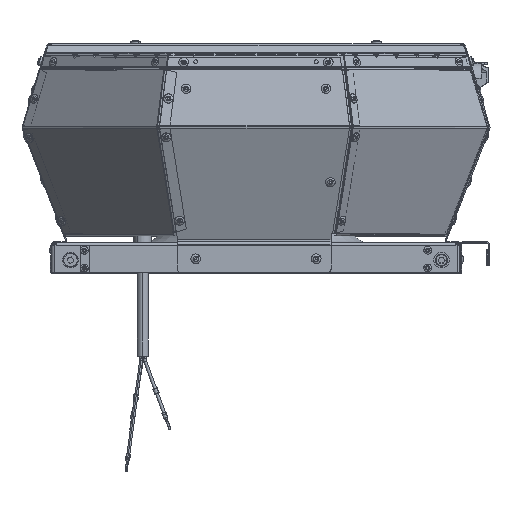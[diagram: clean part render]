
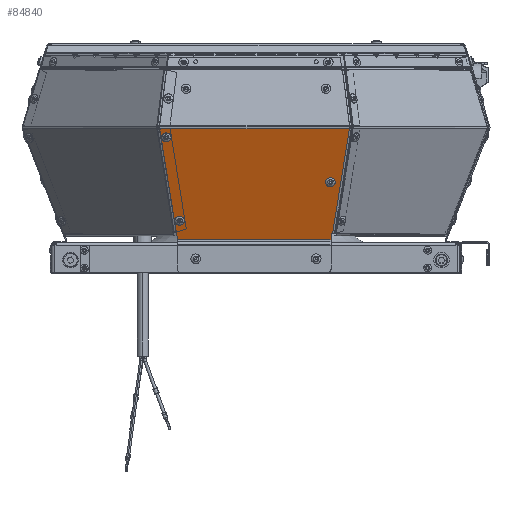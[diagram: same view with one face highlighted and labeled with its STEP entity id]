
A CAD part, top view. The second image highlights one B-rep face of the part: STEP entity #84840.
In plain terms, the highlighted planar face has unit normal (0, -0.362, 0.932).
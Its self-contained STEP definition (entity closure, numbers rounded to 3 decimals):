
#13533 = LINE ( 'NONE', #57414, #13535 ) ;
#13535 = VECTOR ( 'NONE', #57427, 1000. ) ;
#13552 = LINE ( 'NONE', #57530, #13555 ) ;
#13555 = VECTOR ( 'NONE', #57533, 1000. ) ;
#13692 = LINE ( 'NONE', #24777, #13695 ) ;
#13695 = VECTOR ( 'NONE', #24779, 1000. ) ;
#16326 = CARTESIAN_POINT ( 'NONE',  ( 77.58, 96.532, 193.955 ) ) ;
#16332 = DIRECTION ( 'NONE',  ( 0.965, -0.245, -0.095 ) ) ;
#16343 = CARTESIAN_POINT ( 'NONE',  ( 62.259, 9.286, 160.026 ) ) ;
#16344 = DIRECTION ( 'NONE',  ( -1., 0., 0. ) ) ;
#16350 = CARTESIAN_POINT ( 'NONE',  ( -74.512, 89.402, 191.182 ) ) ;
#16351 = DIRECTION ( 'NONE',  ( 0., 0.362, -0.932 ) ) ;
#16352 = DIRECTION ( 'NONE',  ( 0., 0.932, 0.362 ) ) ;
#16507 = CARTESIAN_POINT ( 'NONE',  ( 80., 4.499, 158.165 ) ) ;
#16508 = DIRECTION ( 'NONE',  ( -1., 0., 0. ) ) ;
#21293 = AXIS2_PLACEMENT_3D ( 'NONE', #48141, #48133, #48143 ) ;
#24777 = CARTESIAN_POINT ( 'NONE',  ( -65.164, 4.499, 158.165 ) ) ;
#24779 = DIRECTION ( 'NONE',  ( -0.148, 0.922, 0.358 ) ) ;
#27751 = FACE_BOUND ( 'NONE', #31675, .T. ) ;
#27753 = FACE_BOUND ( 'NONE', #31655, .T. ) ;
#27756 = FACE_OUTER_BOUND ( 'NONE', #31855, .T. ) ;
#27759 = FACE_BOUND ( 'NONE', #31853, .T. ) ;
#30912 = ORIENTED_EDGE ( 'NONE', *, *, #74781, .T. ) ;
#31014 = ORIENTED_EDGE ( 'NONE', *, *, #74881, .T. ) ;
#31024 = ORIENTED_EDGE ( 'NONE', *, *, #74483, .F. ) ;
#31072 = ORIENTED_EDGE ( 'NONE', *, *, #74491, .T. ) ;
#31114 = ORIENTED_EDGE ( 'NONE', *, *, #74487, .T. ) ;
#31216 = ORIENTED_EDGE ( 'NONE', *, *, #74724, .T. ) ;
#31234 = ORIENTED_EDGE ( 'NONE', *, *, #74749, .F. ) ;
#31327 = ORIENTED_EDGE ( 'NONE', *, *, #88229, .F. ) ;
#31333 = ORIENTED_EDGE ( 'NONE', *, *, #88213, .T. ) ;
#31339 = ORIENTED_EDGE ( 'NONE', *, *, #74861, .F. ) ;
#31344 = ORIENTED_EDGE ( 'NONE', *, *, #74878, .F. ) ;
#31442 = ORIENTED_EDGE ( 'NONE', *, *, #88321, .F. ) ;
#31452 = ORIENTED_EDGE ( 'NONE', *, *, #74442, .F. ) ;
#31655 = EDGE_LOOP ( 'NONE', ( #31216, #30912 ) ) ;
#31675 = EDGE_LOOP ( 'NONE', ( #31234, #31024 ) ) ;
#31781 = ORIENTED_EDGE ( 'NONE', *, *, #75066, .F. ) ;
#31853 = EDGE_LOOP ( 'NONE', ( #31114, #31014 ) ) ;
#31855 = EDGE_LOOP ( 'NONE', ( #31781, #31327, #31344, #31333, #31339, #31452, #31072, #31442 ) ) ;
#32630 = LINE ( 'NONE', #59636, #32648 ) ;
#32648 = VECTOR ( 'NONE', #59623, 1000. ) ;
#32670 = CIRCLE ( 'NONE', #79886, 2.1 ) ;
#32676 = CIRCLE ( 'NONE', #79887, 2.1 ) ;
#32680 = LINE ( 'NONE', #59746, #32686 ) ;
#32686 = VECTOR ( 'NONE', #59733, 1000. ) ;
#32880 = CIRCLE ( 'NONE', #79919, 2.1 ) ;
#32896 = CIRCLE ( 'NONE', #79924, 2.1 ) ;
#32924 = CIRCLE ( 'NONE', #79929, 2.1 ) ;
#32968 = LINE ( 'NONE', #16326, #32992 ) ;
#32992 = VECTOR ( 'NONE', #16332, 1000. ) ;
#32994 = LINE ( 'NONE', #16343, #33002 ) ;
#32998 = CIRCLE ( 'NONE', #79938, 2.1 ) ;
#33002 = VECTOR ( 'NONE', #16344, 1000. ) ;
#33171 = LINE ( 'NONE', #16507, #33174 ) ;
#33174 = VECTOR ( 'NONE', #16508, 1000. ) ;
#48133 = DIRECTION ( 'NONE',  ( 0., 0.362, -0.932 ) ) ;
#48141 = CARTESIAN_POINT ( 'NONE',  ( 80., 97.367, 194.279 ) ) ;
#48142 = PLANE ( 'NONE',  #21293 ) ;
#48143 = DIRECTION ( 'NONE',  ( 0., 0.932, 0.362 ) ) ;
#57414 = CARTESIAN_POINT ( 'NONE',  ( 62.817, 4.827, 158.293 ) ) ;
#57427 = DIRECTION ( 'NONE',  ( 0.148, 0.922, 0.358 ) ) ;
#57530 = CARTESIAN_POINT ( 'NONE',  ( 62.259, -7.491, 153.503 ) ) ;
#57533 = DIRECTION ( 'NONE',  ( 0., -0.932, -0.362 ) ) ;
#58562 = CARTESIAN_POINT ( 'NONE',  ( 61.664, 54.166, 177.48 ) ) ;
#58809 = CARTESIAN_POINT ( 'NONE',  ( -80., 96.601, 193.982 ) ) ;
#58815 = CARTESIAN_POINT ( 'NONE',  ( -65.164, 4.499, 158.165 ) ) ;
#58830 = CARTESIAN_POINT ( 'NONE',  ( 63.536, 9.286, 160.026 ) ) ;
#58831 = CARTESIAN_POINT ( 'NONE',  ( 62.259, 9.286, 160.026 ) ) ;
#58844 = CARTESIAN_POINT ( 'NONE',  ( 62.259, 4.499, 158.165 ) ) ;
#58857 = CARTESIAN_POINT ( 'NONE',  ( 77.58, 96.601, 193.982 ) ) ;
#58872 = CARTESIAN_POINT ( 'NONE',  ( 77.589, 96.529, 193.954 ) ) ;
#58874 = CARTESIAN_POINT ( 'NONE',  ( 61.664, 50.251, 175.957 ) ) ;
#58882 = CARTESIAN_POINT ( 'NONE',  ( -63.383, 18.319, 163.539 ) ) ;
#58889 = CARTESIAN_POINT ( 'NONE',  ( -74.512, 87.445, 190.421 ) ) ;
#58895 = CARTESIAN_POINT ( 'NONE',  ( -74.512, 91.359, 191.943 ) ) ;
#58901 = CARTESIAN_POINT ( 'NONE',  ( 77.58, 96.532, 193.955 ) ) ;
#58909 = CARTESIAN_POINT ( 'NONE',  ( -63.383, 22.233, 165.062 ) ) ;
#59623 = DIRECTION ( 'NONE',  ( 0., -0.932, -0.362 ) ) ;
#59636 = CARTESIAN_POINT ( 'NONE',  ( 77.58, 96.532, 193.955 ) ) ;
#59733 = DIRECTION ( 'NONE',  ( -1., 0., 0. ) ) ;
#59738 = CARTESIAN_POINT ( 'NONE',  ( 61.664, 52.209, 176.718 ) ) ;
#59741 = DIRECTION ( 'NONE',  ( 0., -0.362, 0.932 ) ) ;
#59743 = DIRECTION ( 'NONE',  ( 0., -0.932, -0.362 ) ) ;
#59746 = CARTESIAN_POINT ( 'NONE',  ( 80., 96.601, 193.982 ) ) ;
#59749 = CARTESIAN_POINT ( 'NONE',  ( -74.512, 89.402, 191.182 ) ) ;
#59751 = DIRECTION ( 'NONE',  ( 0., 0.362, -0.932 ) ) ;
#59754 = DIRECTION ( 'NONE',  ( 0., 0.932, 0.362 ) ) ;
#60307 = CARTESIAN_POINT ( 'NONE',  ( -63.383, 20.276, 164.301 ) ) ;
#60308 = DIRECTION ( 'NONE',  ( 0., 0.362, -0.932 ) ) ;
#60311 = DIRECTION ( 'NONE',  ( 0., 0.932, 0.362 ) ) ;
#60379 = CARTESIAN_POINT ( 'NONE',  ( 61.664, 52.209, 176.718 ) ) ;
#60382 = DIRECTION ( 'NONE',  ( 0., -0.362, 0.932 ) ) ;
#60383 = DIRECTION ( 'NONE',  ( 0., -0.932, -0.362 ) ) ;
#60465 = CARTESIAN_POINT ( 'NONE',  ( -63.383, 20.276, 164.301 ) ) ;
#60468 = DIRECTION ( 'NONE',  ( 0., 0.362, -0.932 ) ) ;
#60471 = DIRECTION ( 'NONE',  ( 0., 0.932, 0.362 ) ) ;
#71051 = VERTEX_POINT ( 'NONE', #58562 ) ;
#71439 = VERTEX_POINT ( 'NONE', #58809 ) ;
#71445 = VERTEX_POINT ( 'NONE', #58815 ) ;
#71463 = VERTEX_POINT ( 'NONE', #58831 ) ;
#71471 = VERTEX_POINT ( 'NONE', #58830 ) ;
#71487 = VERTEX_POINT ( 'NONE', #58844 ) ;
#71501 = VERTEX_POINT ( 'NONE', #58857 ) ;
#71509 = VERTEX_POINT ( 'NONE', #58872 ) ;
#71521 = VERTEX_POINT ( 'NONE', #58874 ) ;
#71525 = VERTEX_POINT ( 'NONE', #58889 ) ;
#71527 = VERTEX_POINT ( 'NONE', #58882 ) ;
#71541 = VERTEX_POINT ( 'NONE', #58895 ) ;
#71545 = VERTEX_POINT ( 'NONE', #58909 ) ;
#71547 = VERTEX_POINT ( 'NONE', #58901 ) ;
#74442 = EDGE_CURVE ( 'NONE', #71501, #71547, #32630, .T. ) ;
#74483 = EDGE_CURVE ( 'NONE', #71051, #71521, #32670, .T. ) ;
#74487 = EDGE_CURVE ( 'NONE', #71541, #71525, #32676, .T. ) ;
#74491 = EDGE_CURVE ( 'NONE', #71501, #71439, #32680, .T. ) ;
#74724 = EDGE_CURVE ( 'NONE', #71545, #71527, #32880, .T. ) ;
#74749 = EDGE_CURVE ( 'NONE', #71521, #71051, #32896, .T. ) ;
#74781 = EDGE_CURVE ( 'NONE', #71527, #71545, #32924, .T. ) ;
#74861 = EDGE_CURVE ( 'NONE', #71547, #71509, #32968, .T. ) ;
#74878 = EDGE_CURVE ( 'NONE', #71471, #71463, #32994, .T. ) ;
#74881 = EDGE_CURVE ( 'NONE', #71525, #71541, #32998, .T. ) ;
#75066 = EDGE_CURVE ( 'NONE', #71487, #71445, #33171, .T. ) ;
#79886 = AXIS2_PLACEMENT_3D ( 'NONE', #59738, #59741, #59743 ) ;
#79887 = AXIS2_PLACEMENT_3D ( 'NONE', #59749, #59751, #59754 ) ;
#79919 = AXIS2_PLACEMENT_3D ( 'NONE', #60307, #60308, #60311 ) ;
#79924 = AXIS2_PLACEMENT_3D ( 'NONE', #60379, #60382, #60383 ) ;
#79929 = AXIS2_PLACEMENT_3D ( 'NONE', #60465, #60468, #60471 ) ;
#79938 = AXIS2_PLACEMENT_3D ( 'NONE', #16350, #16351, #16352 ) ;
#84840 = ADVANCED_FACE ( 'NONE', ( #27751, #27759, #27753, #27756 ), #48142, .F. ) ;
#88213 = EDGE_CURVE ( 'NONE', #71471, #71509, #13533, .T. ) ;
#88229 = EDGE_CURVE ( 'NONE', #71463, #71487, #13552, .T. ) ;
#88321 = EDGE_CURVE ( 'NONE', #71445, #71439, #13692, .T. ) ;
